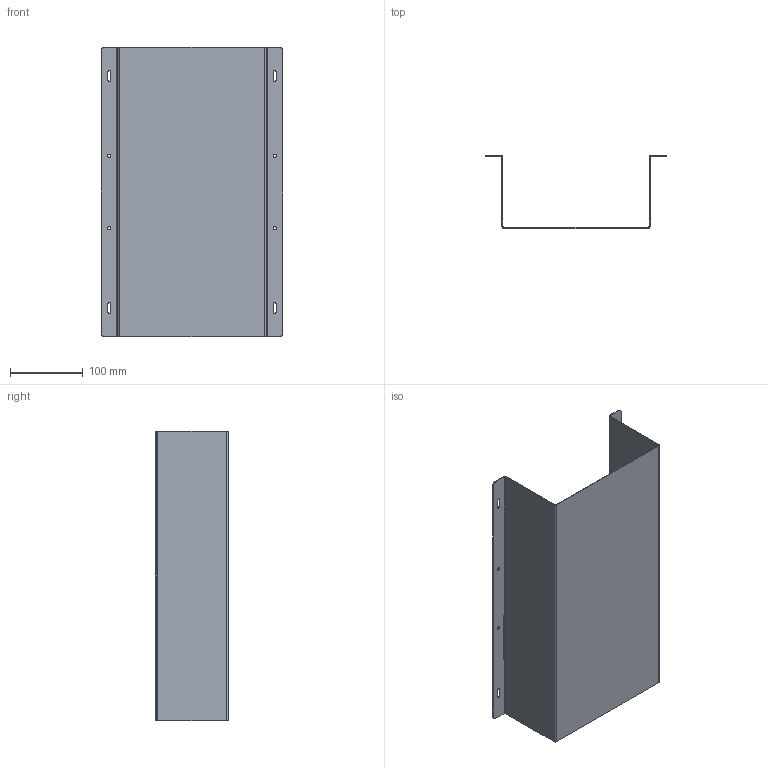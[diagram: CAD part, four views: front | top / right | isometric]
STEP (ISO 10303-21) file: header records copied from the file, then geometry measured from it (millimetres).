
FILE_DESCRIPTION(('STEP AP214'),'1');
FILE_NAME('N522-200x400.stp','2026-08-07T02:09:53',(' '),(' '),'Spatial InterOp 3D',' ',' ');
FILE_SCHEMA(('AUTOMOTIVE_DESIGN { 1 0 10303 214 1 1 1 1 }'));
Length unit declared in the file: metre
Products named in the file (2): N522-200x400; CableTray200
Assembly tree (1 placements, depth 2):
  N522-200x400
    CableTray200
Bounding box: 250 x 100 x 400 mm (x, y, z)
Volume: 212712.2 mm3; surface area: 356772.2 mm2
Topology: 1 solids, 1 shells, 46 faces, 132 edges, 88 vertices
Faces by surface type: cylinder 24, plane 22
Full cylindrical faces by diameter (mm): 4.5 x4
Entity records: 2227 total; most frequent: DIRECTION 272, CARTESIAN_POINT 264, ORIENTED_EDGE 256, EDGE_CURVE 128, STYLED_ITEM 102, PRESENTATION_STYLE_ASSIGNMENT 102, COLOUR_RGB 102, AXIS2_PLACEMENT_3D 96
